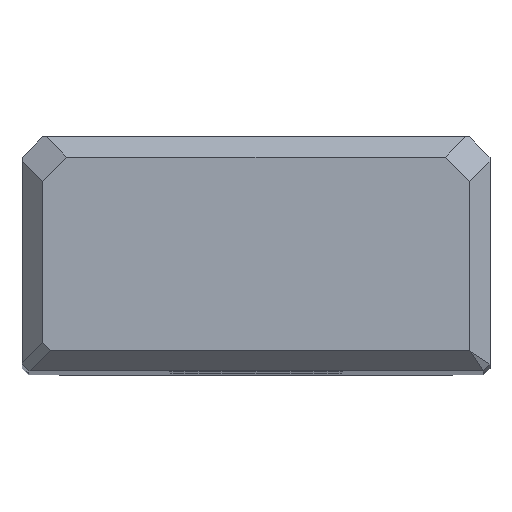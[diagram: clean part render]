
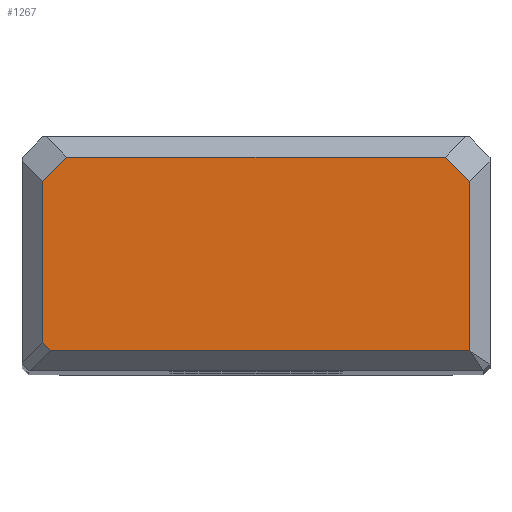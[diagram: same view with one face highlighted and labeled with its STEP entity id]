
A CAD part, top view. The second image highlights one B-rep face of the part: STEP entity #1267.
In plain terms, the highlighted planar face has unit normal (0, 0, 1).
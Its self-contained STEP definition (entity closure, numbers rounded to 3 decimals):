
#141=VERTEX_POINT(' ',#142);
#142=CARTESIAN_POINT('',(32.,-32.,0.));
#143=VERTEX_POINT(' ',#144);
#144=CARTESIAN_POINT('',(-30.775,-32.,0.));
#151=VERTEX_POINT(' ',#152);
#152=CARTESIAN_POINT('',(-32.,-30.775,0.));
#173=VERTEX_POINT(' ',#174);
#174=CARTESIAN_POINT('',(32.,-6.674,0.));
#175=VERTEX_POINT(' ',#176);
#176=CARTESIAN_POINT('',(-28.326,-3.,0.));
#177=VERTEX_POINT(' ',#178);
#178=CARTESIAN_POINT('',(-32.,-6.674,0.));
#179=VERTEX_POINT(' ',#180);
#180=CARTESIAN_POINT('',(28.326,-3.,0.));
#466=LINE('',#467,#468);
#467=CARTESIAN_POINT('',(48.971,-32.,0.));
#468=VECTOR('',#469,1.);
#469=DIRECTION('',(-1.,0.,0.));
#470=EDGE_CURVE(' ',#141,#143,#466,.T.);
#481=LINE('',#482,#483);
#482=CARTESIAN_POINT('',(-31.388,-31.388,0.));
#483=VECTOR('',#484,1.);
#484=DIRECTION('',(0.707,-0.707,0.));
#485=EDGE_CURVE(' ',#143,#151,#481,.F.);
#573=LINE('',#574,#575);
#574=CARTESIAN_POINT('',(32.,16.971,0.));
#575=VECTOR('',#576,1.);
#576=DIRECTION('',(0.,-1.,0.));
#577=EDGE_CURVE(' ',#173,#141,#573,.T.);
#583=LINE('',#584,#585);
#584=CARTESIAN_POINT('',(-12.663,12.663,0.));
#585=VECTOR('',#586,1.);
#586=DIRECTION('',(-0.707,-0.707,0.));
#587=EDGE_CURVE(' ',#177,#175,#583,.F.);
#588=LINE('',#589,#590);
#589=CARTESIAN_POINT('',(-32.,-48.971,0.));
#590=VECTOR('',#591,1.);
#591=DIRECTION('',(0.,1.,0.));
#592=EDGE_CURVE(' ',#151,#177,#588,.T.);
#593=LINE('',#594,#595);
#594=CARTESIAN_POINT('',(12.663,12.663,0.));
#595=VECTOR('',#596,1.);
#596=DIRECTION('',(-0.707,0.707,0.));
#597=EDGE_CURVE(' ',#179,#173,#593,.F.);
#598=LINE('',#599,#600);
#599=CARTESIAN_POINT('',(-48.971,-3.,0.));
#600=VECTOR('',#601,1.);
#601=DIRECTION('',(1.,0.,0.));
#602=EDGE_CURVE(' ',#175,#179,#598,.T.);
#1253=ORIENTED_EDGE('',*,*,#587,.F.);
#1254=ORIENTED_EDGE('',*,*,#592,.F.);
#1255=ORIENTED_EDGE('',*,*,#485,.F.);
#1256=ORIENTED_EDGE('',*,*,#470,.F.);
#1257=ORIENTED_EDGE('',*,*,#577,.F.);
#1258=ORIENTED_EDGE('',*,*,#597,.F.);
#1259=ORIENTED_EDGE('',*,*,#602,.F.);
#1260=EDGE_LOOP('',(#1253,#1254,#1255,#1256,#1257,#1258,#1259));
#1261=FACE_OUTER_BOUND('',#1260,.T.);
#1262=PLANE('',#1263);
#1263=AXIS2_PLACEMENT_3D('',#1264,#1265,#1266);
#1264=CARTESIAN_POINT('',(35.,0.,0.));
#1265=DIRECTION('',(0.,0.,1.));
#1266=DIRECTION('',(-1.,0.,0.));
#1267=ADVANCED_FACE('',(#1261),#1262,.T.);
